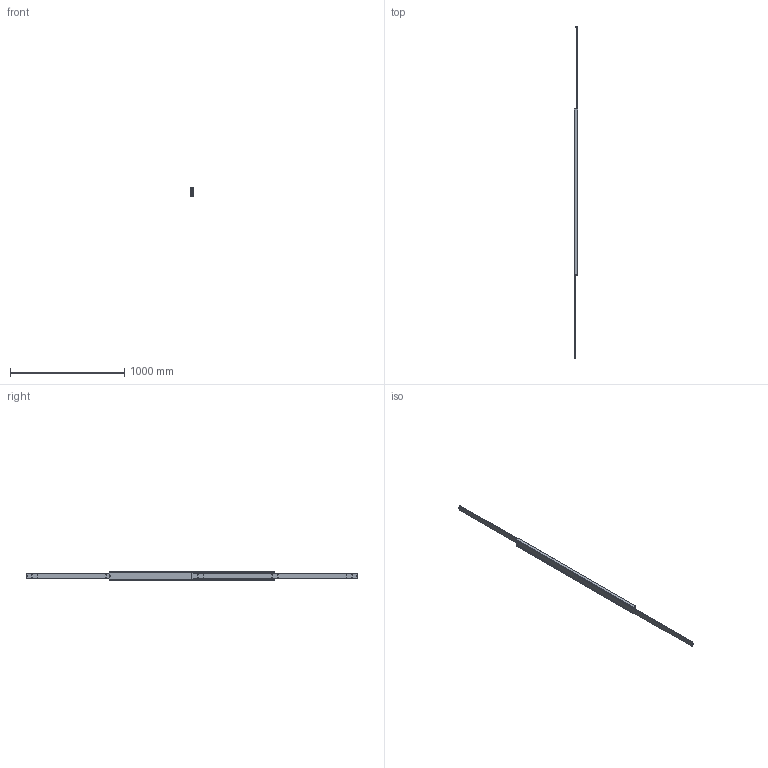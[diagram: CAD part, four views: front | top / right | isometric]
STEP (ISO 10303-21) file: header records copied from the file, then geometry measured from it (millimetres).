
FILE_DESCRIPTION(/* description */ (''),/* implementation_level */ '2;1');
FILE_NAME(/* name */ 'D:\Zeichnungen Schienen Komplett\MX-DTP70\MX-DTP70.145\MX-DTP70.145_ausgefahren.step',/* time_stamp */ '2022-08-10T19:43:03+02:00',/* author */ ('zmile'),/* organization */ (''),/* preprocessor_version */ 'ST-DEVELOPER v16.13',/* originating_system */ 'AutoCAD Mechanical',/* authorisation */ '');
FILE_SCHEMA (('AUTOMOTIVE_DESIGN { 1 0 10303 214 3 1 1 }'));
Products named in the file (1): Product
Bounding box: 32 x 2900 x 70 mm (x, y, z)
Volume: 2569479 mm3; surface area: 902447.9 mm2
Topology: 51 solids, 51 shells, 482 faces, 1208 edges, 832 vertices
Faces by surface type: sphere 132, plane 130, cylinder 128, bspline 86, torus 6
Full cylindrical faces by diameter (mm): 9 x88, 13 x2
Entity records: 198650 total; most frequent: CARTESIAN_POINT 188676, DIRECTION 1806, ORIENTED_EDGE 1780, EDGE_CURVE 890, EDGE_LOOP 854, AXIS2_PLACEMENT_3D 797, VERTEX_POINT 742, FACE_OUTER_BOUND 482
